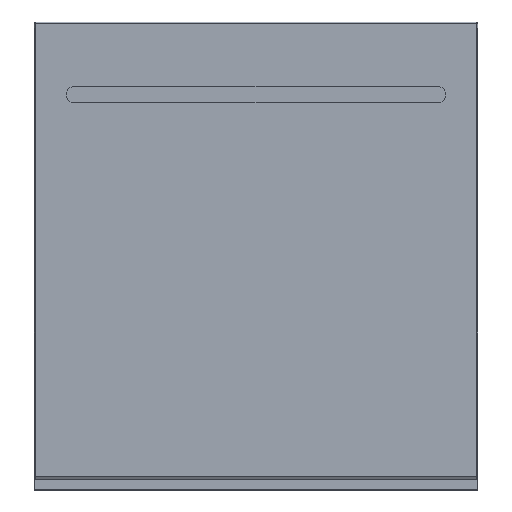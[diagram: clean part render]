
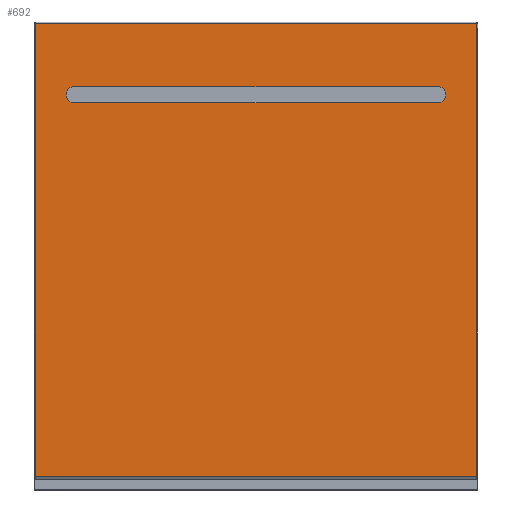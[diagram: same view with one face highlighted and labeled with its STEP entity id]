
A CAD part, top view. The second image highlights one B-rep face of the part: STEP entity #692.
In plain terms, the highlighted planar face has unit normal (0, 0, 1).
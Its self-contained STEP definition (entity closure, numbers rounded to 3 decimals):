
#123=CARTESIAN_POINT('',(-285.,254.5,7.5));
#124=DIRECTION('',(0.,0.,1.));
#125=DIRECTION('',(1.,0.,0.));
#126=AXIS2_PLACEMENT_3D('',#123,#124,#125);
#128=CARTESIAN_POINT('',(-285.,254.5,7.5));
#129=DIRECTION('',(0.,0.,1.));
#130=DIRECTION('',(-1.,0.,0.));
#131=AXIS2_PLACEMENT_3D('',#128,#129,#130);
#133=CARTESIAN_POINT('',(285.,254.5,7.5));
#134=DIRECTION('',(0.,0.,1.));
#135=DIRECTION('',(1.,0.,0.));
#136=AXIS2_PLACEMENT_3D('',#133,#134,#135);
#138=CARTESIAN_POINT('',(285.,254.5,7.5));
#139=DIRECTION('',(0.,0.,1.));
#140=DIRECTION('',(-1.,0.,0.));
#141=AXIS2_PLACEMENT_3D('',#138,#139,#140);
#143=DIRECTION('',(-1.,0.,0.));
#144=VECTOR('',#143,696.4);
#145=CARTESIAN_POINT('',(348.2,-348.7,7.5));
#146=LINE('',#145,#144);
#147=DIRECTION('',(0.,1.,0.));
#148=VECTOR('',#147,716.4);
#149=CARTESIAN_POINT('',(-348.2,-348.7,7.5));
#150=LINE('',#149,#148);
#151=DIRECTION('',(-1.,0.,0.));
#152=VECTOR('',#151,696.4);
#153=CARTESIAN_POINT('',(348.2,367.7,7.5));
#154=LINE('',#153,#152);
#155=DIRECTION('',(0.,-1.,0.));
#156=VECTOR('',#155,716.4);
#157=CARTESIAN_POINT('',(348.2,367.7,7.5));
#158=LINE('',#157,#156);
#418=CARTESIAN_POINT('',(-275.,254.5,7.5));
#419=CARTESIAN_POINT('',(-295.,254.5,7.5));
#420=VERTEX_POINT('',#418);
#421=VERTEX_POINT('',#419);
#422=CARTESIAN_POINT('',(295.,254.5,7.5));
#423=CARTESIAN_POINT('',(275.,254.5,7.5));
#424=VERTEX_POINT('',#422);
#425=VERTEX_POINT('',#423);
#486=CARTESIAN_POINT('',(348.2,-348.7,7.5));
#487=CARTESIAN_POINT('',(-348.2,-348.7,7.5));
#488=VERTEX_POINT('',#486);
#489=VERTEX_POINT('',#487);
#506=CARTESIAN_POINT('',(-348.2,367.7,7.5));
#507=VERTEX_POINT('',#506);
#508=CARTESIAN_POINT('',(348.2,367.7,7.5));
#509=VERTEX_POINT('',#508);
#668=CARTESIAN_POINT('',(-350.,369.5,7.5));
#669=DIRECTION('',(0.,0.,1.));
#670=DIRECTION('',(0.,-1.,0.));
#671=AXIS2_PLACEMENT_3D('',#668,#669,#670);
#672=PLANE('',#671);
#673=ORIENTED_EDGE('',*,*,#606,.T.);
#674=ORIENTED_EDGE('',*,*,#634,.T.);
#675=ORIENTED_EDGE('',*,*,#658,.F.);
#677=ORIENTED_EDGE('',*,*,#676,.T.);
#678=EDGE_LOOP('',(#673,#674,#675,#677));
#679=FACE_OUTER_BOUND('',#678,.F.);
#681=ORIENTED_EDGE('',*,*,#680,.T.);
#683=ORIENTED_EDGE('',*,*,#682,.T.);
#684=EDGE_LOOP('',(#681,#683));
#685=FACE_BOUND('',#684,.F.);
#687=ORIENTED_EDGE('',*,*,#686,.T.);
#689=ORIENTED_EDGE('',*,*,#688,.T.);
#690=EDGE_LOOP('',(#687,#689));
#691=FACE_BOUND('',#690,.F.);
#127=CIRCLE('',#126,10.);
#132=CIRCLE('',#131,10.);
#137=CIRCLE('',#136,10.);
#142=CIRCLE('',#141,10.);
#606=EDGE_CURVE('',#488,#489,#146,.T.);
#634=EDGE_CURVE('',#489,#507,#150,.T.);
#658=EDGE_CURVE('',#509,#507,#154,.T.);
#676=EDGE_CURVE('',#509,#488,#158,.T.);
#680=EDGE_CURVE('',#424,#425,#137,.T.);
#682=EDGE_CURVE('',#425,#424,#142,.T.);
#686=EDGE_CURVE('',#420,#421,#127,.T.);
#688=EDGE_CURVE('',#421,#420,#132,.T.);
#692=ADVANCED_FACE('',(#679,#685,#691),#672,.T.);
